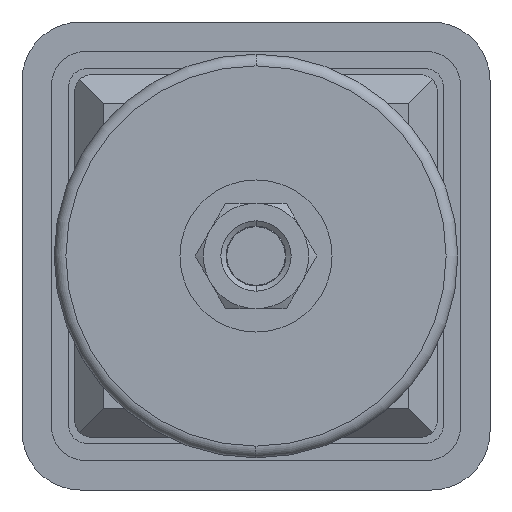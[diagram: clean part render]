
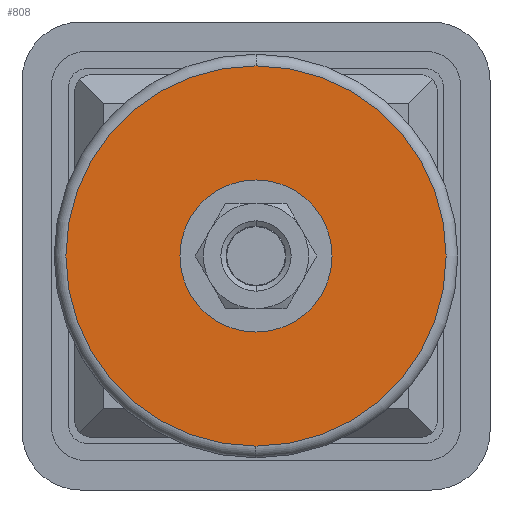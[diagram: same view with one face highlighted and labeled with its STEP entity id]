
A CAD part, front view. The second image highlights one B-rep face of the part: STEP entity #808.
In plain terms, the highlighted planar face has unit normal (0, -1, 0).
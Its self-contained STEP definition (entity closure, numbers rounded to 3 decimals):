
#719 = VERTEX_POINT ( 'NONE', #6462 ) ;
#808 = ADVANCED_FACE ( 'NONE', ( #2908, #1275 ), #2382, .T. ) ;
#882 = DIRECTION ( 'NONE',  ( 0., 0., -1. ) ) ;
#1093 = CIRCLE ( 'NONE', #3581, 32.5 ) ;
#1275 = FACE_BOUND ( 'NONE', #3288, .T. ) ;
#1514 = AXIS2_PLACEMENT_3D ( 'NONE', #2201, #2690, #4911 ) ;
#1629 = AXIS2_PLACEMENT_3D ( 'NONE', #4566, #1699, #3313 ) ;
#1699 = DIRECTION ( 'NONE',  ( 0., -1., 0. ) ) ;
#1858 = CIRCLE ( 'NONE', #5835, 32.5 ) ;
#1874 = ORIENTED_EDGE ( 'NONE', *, *, #3958, .F. ) ;
#1897 = DIRECTION ( 'NONE',  ( 0., -1., 0. ) ) ;
#1926 = EDGE_CURVE ( 'NONE', #719, #5920, #1093, .T. ) ;
#2186 = CARTESIAN_POINT ( 'NONE',  ( 0., -18., 13. ) ) ;
#2191 = CARTESIAN_POINT ( 'NONE',  ( 0., -18., -32.5 ) ) ;
#2201 = CARTESIAN_POINT ( 'NONE',  ( 0., -18., 0. ) ) ;
#2217 = CARTESIAN_POINT ( 'NONE',  ( 0., -18., -13. ) ) ;
#2382 = PLANE ( 'NONE',  #3299 ) ;
#2522 = CIRCLE ( 'NONE', #1629, 13. ) ;
#2690 = DIRECTION ( 'NONE',  ( 0., -1., 0. ) ) ;
#2908 = FACE_OUTER_BOUND ( 'NONE', #3036, .T. ) ;
#2973 = DIRECTION ( 'NONE',  ( 0., -1., 0. ) ) ;
#3036 = EDGE_LOOP ( 'NONE', ( #6443, #5813 ) ) ;
#3268 = EDGE_CURVE ( 'NONE', #5920, #719, #1858, .T. ) ;
#3288 = EDGE_LOOP ( 'NONE', ( #1874, #6007 ) ) ;
#3299 = AXIS2_PLACEMENT_3D ( 'NONE', #3442, #2973, #3506 ) ;
#3313 = DIRECTION ( 'NONE',  ( 0., 0., -1. ) ) ;
#3442 = CARTESIAN_POINT ( 'NONE',  ( 34.5, -18., 0. ) ) ;
#3506 = DIRECTION ( 'NONE',  ( 0., 0., -1. ) ) ;
#3581 = AXIS2_PLACEMENT_3D ( 'NONE', #5237, #6378, #5766 ) ;
#3958 = EDGE_CURVE ( 'NONE', #6922, #5552, #4586, .T. ) ;
#4566 = CARTESIAN_POINT ( 'NONE',  ( 0., -18., 0. ) ) ;
#4586 = CIRCLE ( 'NONE', #1514, 13. ) ;
#4911 = DIRECTION ( 'NONE',  ( 0., 0., -1. ) ) ;
#5237 = CARTESIAN_POINT ( 'NONE',  ( 0., -18., 0. ) ) ;
#5290 = EDGE_CURVE ( 'NONE', #5552, #6922, #2522, .T. ) ;
#5552 = VERTEX_POINT ( 'NONE', #2186 ) ;
#5766 = DIRECTION ( 'NONE',  ( 0., 0., -1. ) ) ;
#5811 = CARTESIAN_POINT ( 'NONE',  ( 0., -18., 0. ) ) ;
#5813 = ORIENTED_EDGE ( 'NONE', *, *, #1926, .T. ) ;
#5835 = AXIS2_PLACEMENT_3D ( 'NONE', #5811, #1897, #882 ) ;
#5920 = VERTEX_POINT ( 'NONE', #2191 ) ;
#6007 = ORIENTED_EDGE ( 'NONE', *, *, #5290, .F. ) ;
#6378 = DIRECTION ( 'NONE',  ( 0., -1., 0. ) ) ;
#6443 = ORIENTED_EDGE ( 'NONE', *, *, #3268, .T. ) ;
#6462 = CARTESIAN_POINT ( 'NONE',  ( 0., -18., 32.5 ) ) ;
#6922 = VERTEX_POINT ( 'NONE', #2217 ) ;
